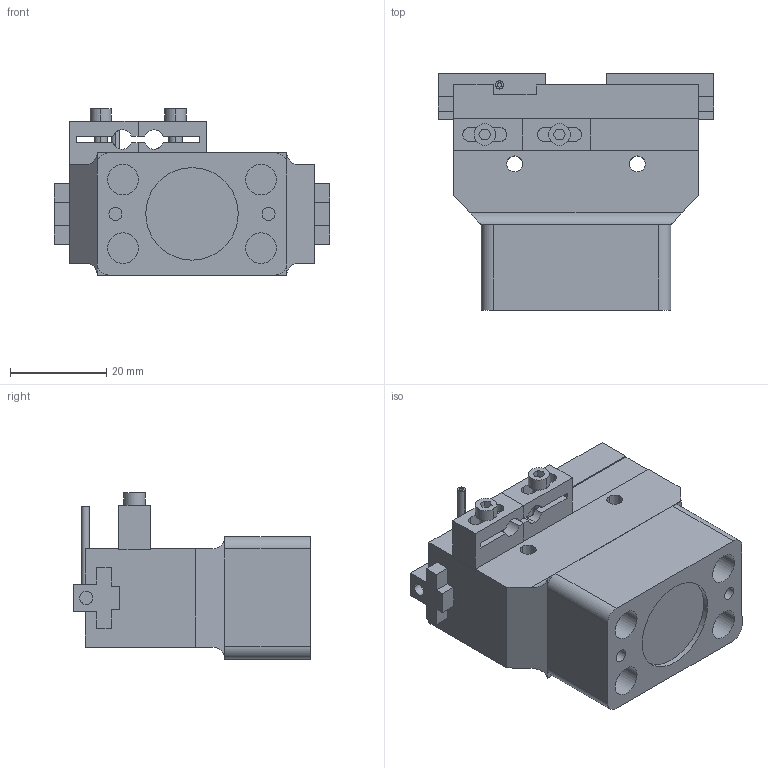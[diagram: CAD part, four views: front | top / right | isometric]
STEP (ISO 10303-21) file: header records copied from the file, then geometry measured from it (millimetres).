
FILE_DESCRIPTION (( 'STEP AP203' ), '1' );
FILE_NAME ('AGPT-500 OPEN in MM.STEP', '2014-10-31T19:52:22', ( 'setup' ), ( '' ), 'SwSTEP 2.0', 'SolidWorks 2013', '' );
FILE_SCHEMA (( 'CONFIG_CONTROL_DESIGN' ));
Length unit declared in the file: millimetre
Products named in the file (6): RPG25S2; RPG25G; RPG25S1; RPG25B; AGPT-500 OPEN in MM; RPG25G2
Assembly tree (5 placements, depth 2):
  AGPT-500 OPEN in MM
    RPG25B
    RPG25G2
    RPG25S2
    RPG25G
    RPG25S1
Bounding box: 57.15 x 49.12 x 34.48 mm (x, y, z)
Volume: 46239.2 mm3; surface area: 16011 mm2
Topology: 5 solids, 6 shells, 242 faces, 614 edges, 404 vertices
Faces by surface type: plane 158, cylinder 84
Entity records: 8032 total; most frequent: CARTESIAN_POINT 1384, DIRECTION 1274, ORIENTED_EDGE 1228, EDGE_CURVE 614, LINE 430, VECTOR 430, AXIS2_PLACEMENT_3D 422, VERTEX_POINT 404
